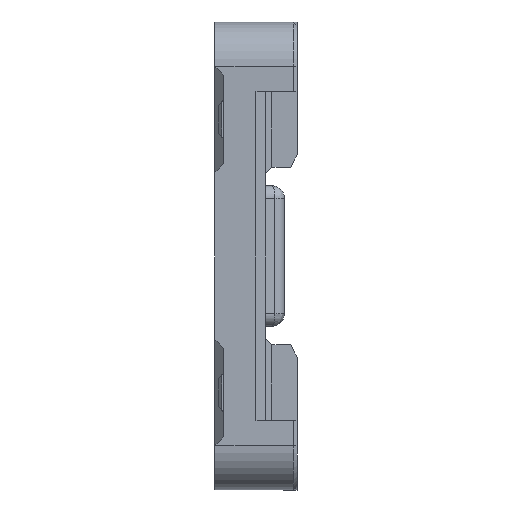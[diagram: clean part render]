
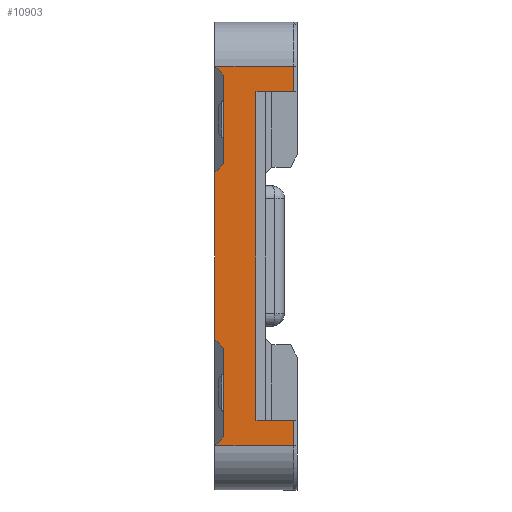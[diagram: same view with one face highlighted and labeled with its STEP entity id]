
A CAD part, left-side view. The second image highlights one B-rep face of the part: STEP entity #10903.
In plain terms, the highlighted planar face has unit normal (-1, 0, 0).
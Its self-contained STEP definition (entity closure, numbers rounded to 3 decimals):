
#11 = DIRECTION ( 'NONE',  ( 0., 1., 0. ) ) ;
#26 = CARTESIAN_POINT ( 'NONE',  ( -2.62, 0.63, -1.43 ) ) ;
#164 = VERTEX_POINT ( 'NONE', #26 ) ;
#249 = CARTESIAN_POINT ( 'NONE',  ( -2.62, 0.63, 1.43 ) ) ;
#346 = EDGE_CURVE ( 'NONE', #1044, #4453, #2543, .T. ) ;
#463 = VERTEX_POINT ( 'NONE', #834 ) ;
#580 = LINE ( 'NONE', #4185, #1716 ) ;
#585 = VERTEX_POINT ( 'NONE', #5615 ) ;
#709 = ORIENTED_EDGE ( 'NONE', *, *, #8365, .T. ) ;
#721 = FACE_OUTER_BOUND ( 'NONE', #5298, .T. ) ;
#834 = CARTESIAN_POINT ( 'NONE',  ( -2.62, 0.7, -1.5 ) ) ;
#927 = LINE ( 'NONE', #3634, #9242 ) ;
#1044 = VERTEX_POINT ( 'NONE', #7643 ) ;
#1107 = VECTOR ( 'NONE', #9990, 1000. ) ;
#1316 = LINE ( 'NONE', #1378, #4091 ) ;
#1378 = CARTESIAN_POINT ( 'NONE',  ( -2.62, 0.05, 1.3 ) ) ;
#1486 = CARTESIAN_POINT ( 'NONE',  ( -2.62, 0.63, -0.73 ) ) ;
#1716 = VECTOR ( 'NONE', #2749, 1000. ) ;
#1726 = VERTEX_POINT ( 'NONE', #6607 ) ;
#1742 = DIRECTION ( 'NONE',  ( 0., -0.707, 0.707 ) ) ;
#1765 = LINE ( 'NONE', #8984, #9424 ) ;
#1917 = VERTEX_POINT ( 'NONE', #249 ) ;
#2056 = EDGE_CURVE ( 'NONE', #5185, #7556, #1316, .T. ) ;
#2058 = DIRECTION ( 'NONE',  ( 0., 0., 1. ) ) ;
#2273 = VERTEX_POINT ( 'NONE', #5771 ) ;
#2318 = LINE ( 'NONE', #1486, #3156 ) ;
#2323 = CARTESIAN_POINT ( 'NONE',  ( -2.62, 0.63, 0.73 ) ) ;
#2432 = DIRECTION ( 'NONE',  ( 0., 0.707, 0.707 ) ) ;
#2490 = DIRECTION ( 'NONE',  ( 0., 0., 1. ) ) ;
#2543 = LINE ( 'NONE', #8759, #2965 ) ;
#2586 = DIRECTION ( 'NONE',  ( 0., 1., 0. ) ) ;
#2749 = DIRECTION ( 'NONE',  ( 0., 1., 0. ) ) ;
#2829 = ORIENTED_EDGE ( 'NONE', *, *, #10803, .F. ) ;
#2958 = DIRECTION ( 'NONE',  ( 0., 0.707, 0.707 ) ) ;
#2965 = VECTOR ( 'NONE', #8814, 1000. ) ;
#3156 = VECTOR ( 'NONE', #2432, 1000. ) ;
#3341 = ORIENTED_EDGE ( 'NONE', *, *, #8516, .T. ) ;
#3365 = VECTOR ( 'NONE', #7653, 1000. ) ;
#3634 = CARTESIAN_POINT ( 'NONE',  ( -2.62, 0.7, -1.5 ) ) ;
#3681 = LINE ( 'NONE', #8902, #5777 ) ;
#3875 = ORIENTED_EDGE ( 'NONE', *, *, #346, .F. ) ;
#3999 = LINE ( 'NONE', #4052, #3365 ) ;
#4052 = CARTESIAN_POINT ( 'NONE',  ( -2.62, 0.08, -1.3 ) ) ;
#4088 = EDGE_CURVE ( 'NONE', #164, #2273, #9379, .T. ) ;
#4091 = VECTOR ( 'NONE', #8582, 1000. ) ;
#4185 = CARTESIAN_POINT ( 'NONE',  ( -2.62, 0.58, 1.5 ) ) ;
#4227 = EDGE_CURVE ( 'NONE', #7249, #1044, #3681, .T. ) ;
#4263 = CARTESIAN_POINT ( 'NONE',  ( -2.62, 0.63, 0.73 ) ) ;
#4298 = CARTESIAN_POINT ( 'NONE',  ( -2.62, 0.375, 1.3 ) ) ;
#4453 = VERTEX_POINT ( 'NONE', #2323 ) ;
#4825 = CARTESIAN_POINT ( 'NONE',  ( -2.62, 0.63, -1.43 ) ) ;
#4883 = ORIENTED_EDGE ( 'NONE', *, *, #11562, .T. ) ;
#5185 = VERTEX_POINT ( 'NONE', #10931 ) ;
#5298 = EDGE_LOOP ( 'NONE', ( #3341, #9202, #9604, #6786, #7579, #6175, #3875, #8718, #2829, #11364, #9457, #10842, #4883, #709 ) ) ;
#5615 = CARTESIAN_POINT ( 'NONE',  ( -2.62, 0.08, -1.3 ) ) ;
#5682 = EDGE_CURVE ( 'NONE', #4453, #1917, #6096, .T. ) ;
#5771 = CARTESIAN_POINT ( 'NONE',  ( -2.62, 0.63, -0.73 ) ) ;
#5777 = VECTOR ( 'NONE', #7999, 1000. ) ;
#6096 = LINE ( 'NONE', #4263, #9785 ) ;
#6175 = ORIENTED_EDGE ( 'NONE', *, *, #5682, .F. ) ;
#6208 = PLANE ( 'NONE',  #9029 ) ;
#6270 = CARTESIAN_POINT ( 'NONE',  ( -2.62, 0.58, -1.5 ) ) ;
#6393 = EDGE_CURVE ( 'NONE', #463, #164, #927, .T. ) ;
#6436 = LINE ( 'NONE', #10161, #1107 ) ;
#6437 = LINE ( 'NONE', #11040, #9998 ) ;
#6448 = CARTESIAN_POINT ( 'NONE',  ( -2.62, 0.7, 1.5 ) ) ;
#6607 = CARTESIAN_POINT ( 'NONE',  ( -2.62, 0.08, -1.5 ) ) ;
#6786 = ORIENTED_EDGE ( 'NONE', *, *, #10025, .T. ) ;
#6976 = CARTESIAN_POINT ( 'NONE',  ( -2.62, 0.7, -0.66 ) ) ;
#7074 = LINE ( 'NONE', #10676, #7524 ) ;
#7249 = VERTEX_POINT ( 'NONE', #6976 ) ;
#7374 = EDGE_CURVE ( 'NONE', #5185, #8011, #6436, .T. ) ;
#7445 = LINE ( 'NONE', #7509, #10705 ) ;
#7509 = CARTESIAN_POINT ( 'NONE',  ( -2.62, 0.7, 1.5 ) ) ;
#7524 = VECTOR ( 'NONE', #2586, 1000. ) ;
#7556 = VERTEX_POINT ( 'NONE', #4298 ) ;
#7579 = ORIENTED_EDGE ( 'NONE', *, *, #10588, .F. ) ;
#7643 = CARTESIAN_POINT ( 'NONE',  ( -2.62, 0.7, 0.66 ) ) ;
#7653 = DIRECTION ( 'NONE',  ( 0., 0., 1. ) ) ;
#7682 = EDGE_CURVE ( 'NONE', #1726, #463, #7074, .T. ) ;
#7920 = DIRECTION ( 'NONE',  ( -1., 0., 0. ) ) ;
#7999 = DIRECTION ( 'NONE',  ( 0., 0., 1. ) ) ;
#8011 = VERTEX_POINT ( 'NONE', #10437 ) ;
#8365 = EDGE_CURVE ( 'NONE', #585, #9917, #1765, .T. ) ;
#8435 = DIRECTION ( 'NONE',  ( 0., 0., 1. ) ) ;
#8516 = EDGE_CURVE ( 'NONE', #9917, #7556, #6437, .T. ) ;
#8582 = DIRECTION ( 'NONE',  ( 0., 1., 0. ) ) ;
#8718 = ORIENTED_EDGE ( 'NONE', *, *, #4227, .F. ) ;
#8759 = CARTESIAN_POINT ( 'NONE',  ( -2.62, 0.63, 0.73 ) ) ;
#8765 = DIRECTION ( 'NONE',  ( 0., 0., 1. ) ) ;
#8814 = DIRECTION ( 'NONE',  ( 0., -0.707, 0.707 ) ) ;
#8902 = CARTESIAN_POINT ( 'NONE',  ( -2.62, 0.7, -1.5 ) ) ;
#8984 = CARTESIAN_POINT ( 'NONE',  ( -2.62, 0.05, -1.3 ) ) ;
#9029 = AXIS2_PLACEMENT_3D ( 'NONE', #6270, #7920, #2490 ) ;
#9202 = ORIENTED_EDGE ( 'NONE', *, *, #2056, .F. ) ;
#9242 = VECTOR ( 'NONE', #1742, 1000. ) ;
#9379 = LINE ( 'NONE', #4825, #10141 ) ;
#9424 = VECTOR ( 'NONE', #11, 1000. ) ;
#9457 = ORIENTED_EDGE ( 'NONE', *, *, #6393, .F. ) ;
#9513 = VERTEX_POINT ( 'NONE', #6448 ) ;
#9604 = ORIENTED_EDGE ( 'NONE', *, *, #7374, .T. ) ;
#9785 = VECTOR ( 'NONE', #8765, 1000. ) ;
#9917 = VERTEX_POINT ( 'NONE', #11498 ) ;
#9990 = DIRECTION ( 'NONE',  ( 0., 0., 1. ) ) ;
#9998 = VECTOR ( 'NONE', #2058, 1000. ) ;
#10025 = EDGE_CURVE ( 'NONE', #8011, #9513, #580, .T. ) ;
#10141 = VECTOR ( 'NONE', #8435, 1000. ) ;
#10161 = CARTESIAN_POINT ( 'NONE',  ( -2.62, 0.08, -1.5 ) ) ;
#10437 = CARTESIAN_POINT ( 'NONE',  ( -2.62, 0.08, 1.5 ) ) ;
#10588 = EDGE_CURVE ( 'NONE', #1917, #9513, #7445, .T. ) ;
#10676 = CARTESIAN_POINT ( 'NONE',  ( -2.62, 0.58, -1.5 ) ) ;
#10705 = VECTOR ( 'NONE', #2958, 1000. ) ;
#10803 = EDGE_CURVE ( 'NONE', #2273, #7249, #2318, .T. ) ;
#10842 = ORIENTED_EDGE ( 'NONE', *, *, #7682, .F. ) ;
#10903 = ADVANCED_FACE ( 'NONE', ( #721 ), #6208, .T. ) ;
#10931 = CARTESIAN_POINT ( 'NONE',  ( -2.62, 0.08, 1.3 ) ) ;
#11040 = CARTESIAN_POINT ( 'NONE',  ( -2.62, 0.375, -1.5 ) ) ;
#11364 = ORIENTED_EDGE ( 'NONE', *, *, #4088, .F. ) ;
#11498 = CARTESIAN_POINT ( 'NONE',  ( -2.62, 0.375, -1.3 ) ) ;
#11562 = EDGE_CURVE ( 'NONE', #1726, #585, #3999, .T. ) ;
